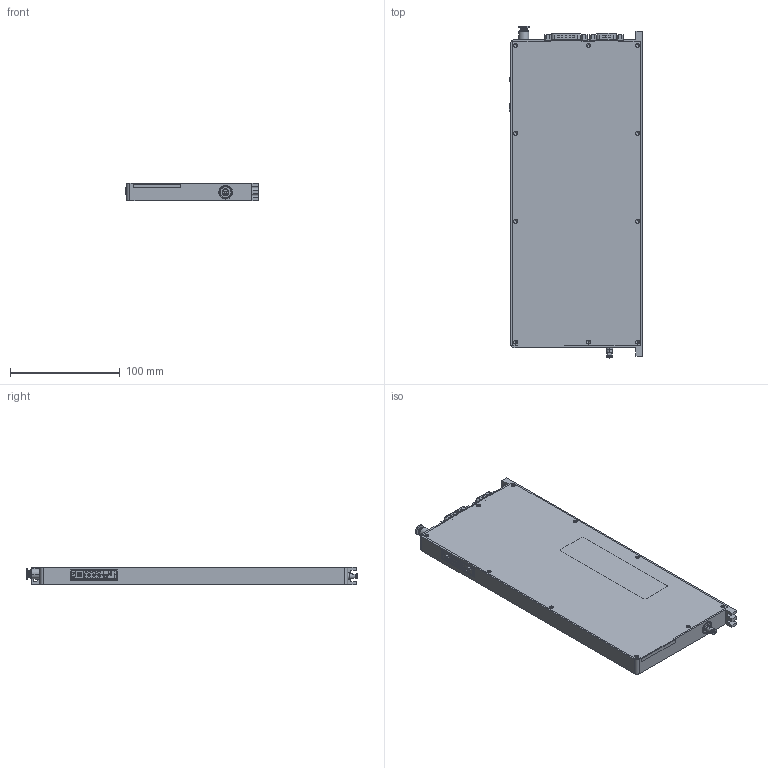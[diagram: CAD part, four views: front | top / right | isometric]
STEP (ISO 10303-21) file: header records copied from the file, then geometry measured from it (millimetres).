
FILE_DESCRIPTION (( 'STEP AP214' ), '1' );
FILE_NAME ('ZRFDS6-16-S30-EC-VD.STEP', '2022-12-13T02:46:28', ( 'XZOS' ), ( 'MS' ), 'SwSTEP 2.0', 'SolidWorks 2019', '' );
FILE_SCHEMA (( 'AUTOMOTIVE_DESIGN' ));
Length unit declared in the file: millimetre
Products named in the file (11): ZRFDS6-16-S30-006_1; ZRFDS6-16-S30-003_1; ZRFDS6-16-S30-EC-VD; POC4M5-S_1; ZRFDS6-16-S30-007_1; DB9-PCB_1; 1210001; UDB26-PCB; 揹諳諉芛假蚾翐; ZRFDS6-16-S30-010_1; ZRFDS6-16-S30-001_1
Assembly tree (13 placements, depth 2):
  ZRFDS6-16-S30-EC-VD
    ZRFDS6-16-S30-001_1
    ZRFDS6-16-S30-003_1
    ZRFDS6-16-S30-006_1
    ZRFDS6-16-S30-007_1
    ZRFDS6-16-S30-010_1
    POC4M5-S_1
    DB9-PCB_1
    1210001
    UDB26-PCB
    揹諳諉芛假蚾翐  x4
Bounding box: 121.09 x 302.1 x 16 mm (x, y, z)
Volume: 543282.4 mm3; surface area: 177850.9 mm2
Topology: 20 solids, 21 shells, 2243 faces, 5397 edges, 3300 vertices
Faces by surface type: plane 886, cylinder 874, bspline 297, torus 93, cone 73, sphere 20
Entity records: 81087 total; most frequent: CARTESIAN_POINT 21585, ORIENTED_EDGE 10388, DIRECTION 10380, EDGE_CURVE 5194, AXIS2_PLACEMENT_3D 3764, VERTEX_POINT 3237, LINE 2852, VECTOR 2852
